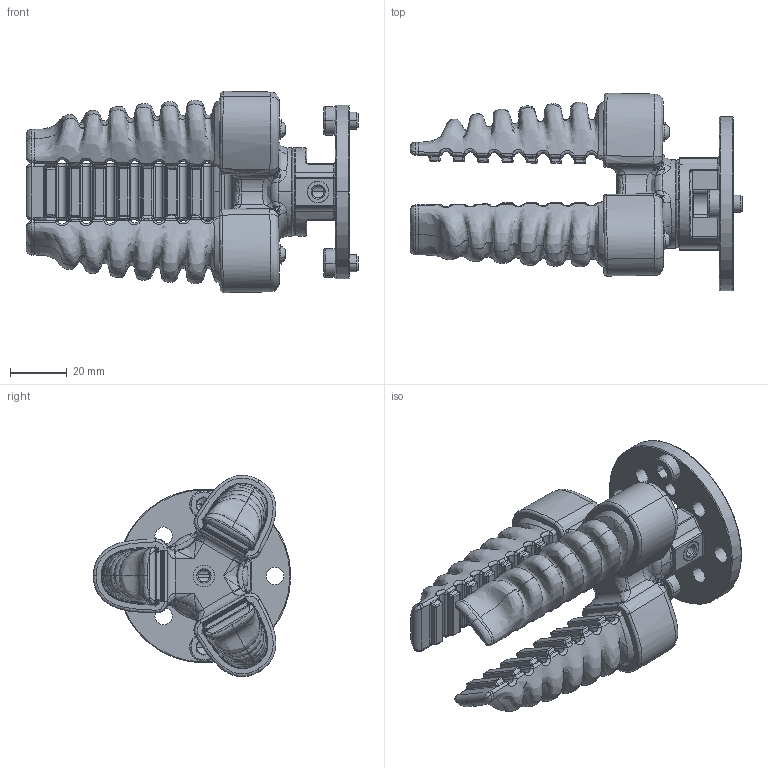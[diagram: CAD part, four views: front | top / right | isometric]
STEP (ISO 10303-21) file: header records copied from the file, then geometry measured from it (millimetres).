
FILE_DESCRIPTION (( 'STEP AP214' ), '1' );
FILE_NAME ('SG.IN.C.F3.S60.A30.D0.R50.STEP', '2022-03-28T12:32:01', ( '' ), ( '' ), 'SwSTEP 2.0', 'SolidWorks 2019', '' );
FILE_SCHEMA (( 'AUTOMOTIVE_DESIGN' ));
Length unit declared in the file: millimetre
Products named in the file (17): SG.FI.SD; SG.IN.C.F3.A30.D0; SG.IN.C.F3.S60.A30.D0.R50; O-Ring_28x1,5; KVT 6238 M5-316; O-Ring_5x1,5; SG.IN.R50; SG.FI..IF; DIN 7984 I-6Kt Zyl-Schr. A2 M 6x8; SG_FI.60; o-Ring_3x1; M3x20-ISO_7380-2; Finger_lang - gefuellt
Assembly tree (32 placements, depth 3):
  SG.IN.C.F3.S60.A30.D0.R50
    SG.IN.C.F3.A30.D0
      SG.IN.C.F3.A30.D0
      o-Ring_3x1  x3
      KVT 6238 M5-316  x3
      M3x20-ISO_7380-2  x3
      O-Ring_5x1,5  x2
      O-Ring_28x1,5
    SG_FI.60
      Finger_lang - gefuellt
      SG.FI..IF
      SG.FI.SD
    SG_FI.60
      Finger_lang - gefuellt
      SG.FI..IF
      SG.FI.SD
    SG_FI.60
      Finger_lang - gefuellt
      SG.FI..IF
      SG.FI.SD
    SG.IN.R50
      SG.IN.R50
      DIN 7984 I-6Kt Zyl-Schr. A2 M 6x8  x2
      KVT 6238 M5-316  x2
Bounding box: 116.55 x 69.34 x 70.66 mm (x, y, z)
Volume: 126123.7 mm3; surface area: 62941.2 mm2
Topology: 27 solids, 27 shells, 2930 faces, 7148 edges, 4171 vertices
Faces by surface type: bspline 1371, cylinder 540, plane 454, sphere 271, torus 187, cone 107
Entity records: 109283 total; most frequent: CARTESIAN_POINT 78692, ORIENTED_EDGE 7054, DIRECTION 5192, EDGE_CURVE 3527, AXIS2_PLACEMENT_3D 2218, VERTEX_POINT 2104, EDGE_LOOP 1583, FACE_OUTER_BOUND 1481
